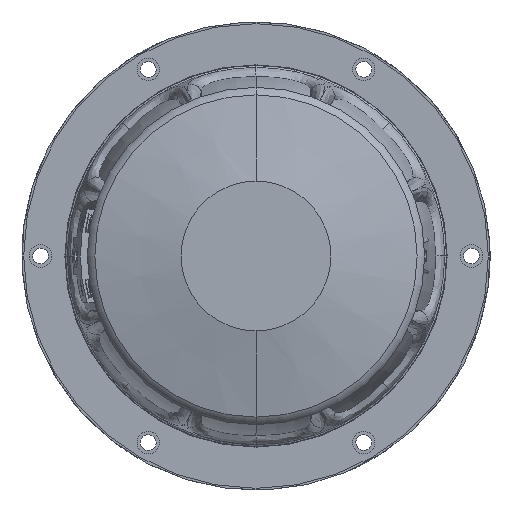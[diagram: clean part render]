
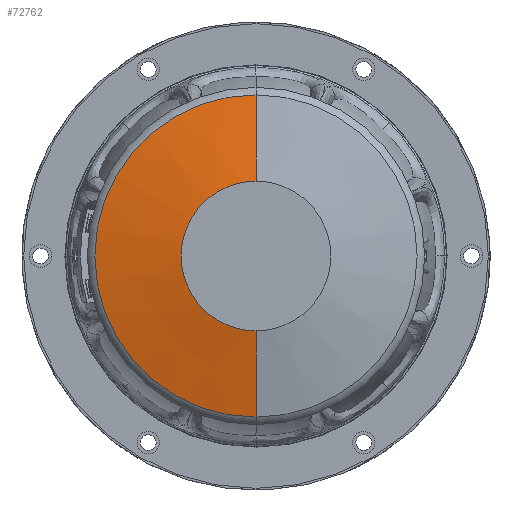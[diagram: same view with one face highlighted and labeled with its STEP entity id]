
A CAD part, front view. The second image highlights one B-rep face of the part: STEP entity #72762.
In plain terms, the highlighted conical face has half-angle 77.735 degrees and reference radius 43 mm.
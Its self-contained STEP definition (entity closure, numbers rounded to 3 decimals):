
#815 = VERTEX_POINT ( 'NONE', #68544 ) ;
#17882 = DIRECTION ( 'NONE',  ( 0., 0., 1. ) ) ;
#20166 = DIRECTION ( 'NONE',  ( 0., 0., 1. ) ) ;
#20178 = LINE ( 'NONE', #106378, #126929 ) ;
#21914 = DIRECTION ( 'NONE',  ( 0., 0., 1. ) ) ;
#23818 = LINE ( 'NONE', #112766, #58343 ) ;
#41418 = CIRCLE ( 'NONE', #172310, 20. ) ;
#46258 = EDGE_CURVE ( 'NONE', #102161, #815, #166268, .T. ) ;
#56349 = EDGE_CURVE ( 'NONE', #229059, #102161, #23818, .T. ) ;
#57490 = CARTESIAN_POINT ( 'NONE',  ( 0., 0., 0. ) ) ;
#58343 = VECTOR ( 'NONE', #153769, 1000. ) ;
#60497 = ORIENTED_EDGE ( 'NONE', *, *, #236444, .T. ) ;
#61658 = ORIENTED_EDGE ( 'NONE', *, *, #110712, .T. ) ;
#68544 = CARTESIAN_POINT ( 'NONE',  ( 0., 5., 43. ) ) ;
#72762 = ADVANCED_FACE ( 'NONE', ( #217951 ), #188120, .T. ) ;
#84335 = CARTESIAN_POINT ( 'NONE',  ( 0., 0., 20. ) ) ;
#84497 = ORIENTED_EDGE ( 'NONE', *, *, #46258, .F. ) ;
#98347 = VERTEX_POINT ( 'NONE', #84335 ) ;
#102161 = VERTEX_POINT ( 'NONE', #173015 ) ;
#106378 = CARTESIAN_POINT ( 'NONE',  ( 0., 5., 43. ) ) ;
#110712 = EDGE_CURVE ( 'NONE', #98347, #815, #20178, .T. ) ;
#112766 = CARTESIAN_POINT ( 'NONE',  ( 0., 5., -43. ) ) ;
#126929 = VECTOR ( 'NONE', #171363, 1000. ) ;
#132811 = EDGE_LOOP ( 'NONE', ( #204529, #60497, #61658, #84497 ) ) ;
#149096 = DIRECTION ( 'NONE',  ( 0., 1., 0. ) ) ;
#150501 = CARTESIAN_POINT ( 'NONE',  ( 0., 5., 0. ) ) ;
#153769 = DIRECTION ( 'NONE',  ( 0., 0.212, -0.977 ) ) ;
#166268 = CIRCLE ( 'NONE', #179799, 43. ) ;
#171363 = DIRECTION ( 'NONE',  ( 0., 0.212, 0.977 ) ) ;
#172310 = AXIS2_PLACEMENT_3D ( 'NONE', #57490, #253913, #17882 ) ;
#173015 = CARTESIAN_POINT ( 'NONE',  ( 0., 5., -43. ) ) ;
#176913 = DIRECTION ( 'NONE',  ( 0., 1., 0. ) ) ;
#179799 = AXIS2_PLACEMENT_3D ( 'NONE', #150501, #149096, #21914 ) ;
#188120 = CONICAL_SURFACE ( 'NONE', #260402, 43., 1.357 ) ;
#195648 = CARTESIAN_POINT ( 'NONE',  ( 0., 0., -20. ) ) ;
#204529 = ORIENTED_EDGE ( 'NONE', *, *, #56349, .F. ) ;
#217951 = FACE_OUTER_BOUND ( 'NONE', #132811, .T. ) ;
#229059 = VERTEX_POINT ( 'NONE', #195648 ) ;
#236444 = EDGE_CURVE ( 'NONE', #229059, #98347, #41418, .T. ) ;
#253913 = DIRECTION ( 'NONE',  ( 0., 1., 0. ) ) ;
#257586 = CARTESIAN_POINT ( 'NONE',  ( 0., 5., 0. ) ) ;
#260402 = AXIS2_PLACEMENT_3D ( 'NONE', #257586, #176913, #20166 ) ;
